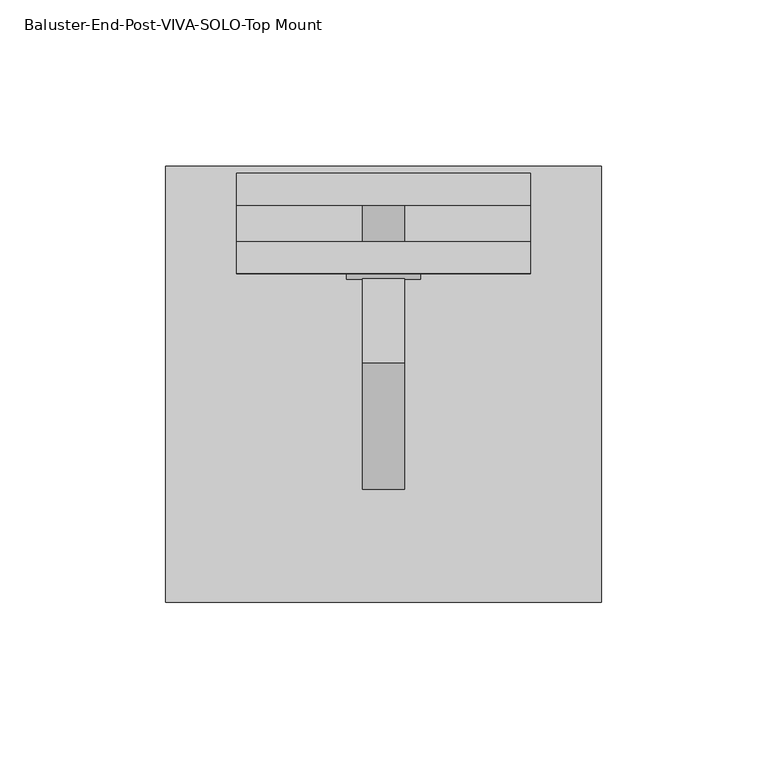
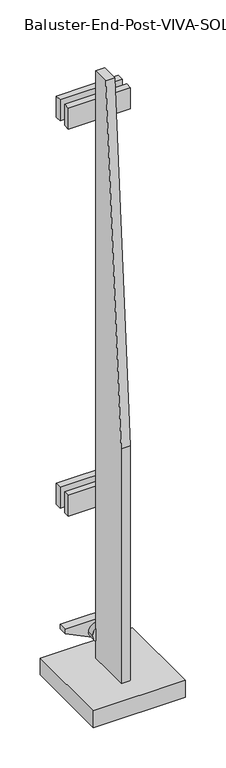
"""IFC4 building model written with IfcOpenShell, lengths in millimetres: proxy geometry, Baluster-End-Post-VIVA-SOLO-Top Mount : ANCHORED TO CONCRETE_TOP MOUNT FOLD_STRAIGHT."""

from ifc_helpers import new_model, si_unit, point, frame, frame_2d, origin, place, context, project, spatial, polyline, circle_curve, trimmed, segment, composite_curve, outline, extrude, source, transform, mapped, element, save


def baluster_end_post_viva_solo_top_mount_e7142cd7(model_context):
    return source(origin(), model_context, "Body", "SweptSolid", [
        extrude(outline(composite_curve([segment(trimmed(circle_curve(frame_2d((268.5208758, 0.0)), 6.35), [point((268.5208758, -6.35))], [point((268.5208758, 6.35))], False, "CARTESIAN"), True, "CONTINUOUS"), segment(trimmed(circle_curve(frame_2d((268.5208758, 0.0)), 6.35), [point((268.5208758, 6.35))], [point((268.5208758, -6.35))], False, "CARTESIAN"), True, "CONTINUOUS")], self_intersect=False)), frame((0.0, -42.5925389, 0.0), z_axis=(0.0, 1.0, 0.0), x_axis=(0.0, 0.0, 1.0)), (0.0, 0.0, 1.0), 12.7),
        extrude(outline(composite_curve([segment(trimmed(circle_curve(frame_2d((854.776764, 0.0)), 6.35), [point((854.776764, -6.35))], [point((854.776764, 6.35))], False, "CARTESIAN"), True, "CONTINUOUS"), segment(trimmed(circle_curve(frame_2d((854.776764, 0.0)), 6.35), [point((854.776764, 6.35))], [point((854.776764, -6.35))], False, "CARTESIAN"), True, "CONTINUOUS")], self_intersect=False)), frame((0.0, -42.5925389, 0.0), z_axis=(0.0, 1.0, 0.0), x_axis=(0.0, 0.0, 1.0)), (0.0, 0.0, 1.0), 12.7),
        extrude(outline(composite_curve([segment(trimmed(circle_curve(frame_2d((60.8777263, 0.0)), 11.1125), [point((60.8777263, -11.1125))], [point((60.8777263, 11.1125))], False, "CARTESIAN"), True, "CONTINUOUS"), segment(trimmed(circle_curve(frame_2d((60.8777263, 0.0)), 11.1125), [point((60.8777263, 11.1125))], [point((60.8777263, -11.1125))], False, "CARTESIAN"), True, "CONTINUOUS")], self_intersect=False)), frame((0.0, -52.1175389, 0.0), z_axis=(0.0, 1.0, 0.0), x_axis=(0.0, 0.0, 1.0)), (0.0, 0.0, 1.0), 25.4),
        extrude(outline(polyline([(-52.1175389, 914.8205071), (-52.1175389, 0.4205071), (-115.6175389, 0.4205071), (-115.6175389, 381.4205071), (-77.5175389, 914.8205071), (-52.1175389, 914.8205071)])), frame((-6.35, 0.0, 0.0), z_axis=(1.0, 0.0, 0.0), x_axis=(0.0, 1.0, 0.0)), (0.0, 0.0, 1.0), 12.7),
        extrude(outline(polyline([(44.45, -20.3675389), (44.45, -29.8925389), (-44.45, -29.8925389), (-44.45, -20.3675389), (44.45, -20.3675389)])), frame((0.0, 0.0, 838.7824344), z_axis=(0.0, 0.0, 1.0), x_axis=(1.0, 0.0, 0.0)), (0.0, 0.0, 1.0), 31.75),
        extrude(outline(polyline([(44.45, -20.3675389), (44.45, -29.8925389), (-44.45, -29.8925389), (-44.45, -20.3675389), (44.45, -20.3675389)])), frame((0.0, 0.0, 252.4484609), z_axis=(0.0, 0.0, 1.0), x_axis=(1.0, 0.0, 0.0)), (0.0, 0.0, 1.0), 31.75),
        extrude(outline(polyline([(70.3302675, -44.45), (48.4156188, 0.0), (70.3302675, 44.45), (76.6802675, 44.45), (76.6802675, -44.45), (70.3302675, -44.45)])), frame((0.0, -42.5925389, 0.0), z_axis=(0.0, 1.0, 0.0), x_axis=(0.0, 0.0, 1.0)), (0.0, 0.0, 1.0), 12.7),
        extrude(outline(polyline([(44.45, -40.984781), (44.45, -50.509781), (-44.45, -50.509781), (-44.45, -40.984781), (44.45, -40.984781)])), frame((0.0, 0.0, 838.7824344), z_axis=(0.0, 0.0, 1.0), x_axis=(1.0, 0.0, 0.0)), (0.0, 0.0, 1.0), 31.75),
        extrude(outline(polyline([(44.45, -40.984781), (44.45, -50.509781), (-44.45, -50.509781), (-44.45, -40.984781), (44.45, -40.984781)])), frame((0.0, 0.0, 252.4484609), z_axis=(0.0, 0.0, 1.0), x_axis=(1.0, 0.0, 0.0)), (0.0, 0.0, 1.0), 31.75),
        extrude(outline(polyline([(-65.88125, -17.9862889), (65.88125, -17.9862889), (65.88125, -149.7487889), (-65.88125, -149.7487889), (-65.88125, -17.9862889)])), frame((0.0, 0.0, 0.4205071), z_axis=(0.0, 0.0, 1.0), x_axis=(1.0, 0.0, 0.0)), (0.0, 0.0, 1.0), 25.4),
    ])


if __name__ == "__main__":
    model = new_model("IFC4")
    model_context = context("Model", 3, world=origin())
    ifc_project = project(units=[si_unit("LENGTHUNIT", "METRE", prefix="MILLI")], contexts=[model_context])
    site = spatial("IfcSite", under=ifc_project)
    building = spatial("IfcBuilding", under=site)
    placement = place(None, origin())
    baluster_end_post_viva_solo_top_mount_shape = baluster_end_post_viva_solo_top_mount_e7142cd7(model_context)
    element("IfcBuildingElementProxy", 1, Name="Baluster-End-Post-VIVA-SOLO-Top Mount : ANCHORED TO CONCRETE_TOP MOUNT FOLD_STRAIGHT", ObjectType="Baluster-End-Post-VIVA-SOLO-Top Mount : ANCHORED TO CONCRETE_TOP MOUNT FOLD_STRAIGHT", at=placement, inside=building, context=model_context, shape_type="MappedRepresentation", body=[
        mapped(baluster_end_post_viva_solo_top_mount_shape, transform((0.0, 0.0, 0.0), x_axis=(1.0, 0.0, 0.0), y_axis=(0.0, 1.0, 0.0), z_axis=(0.0, 0.0, 1.0))),
    ])
    save(model, "model.ifc")
